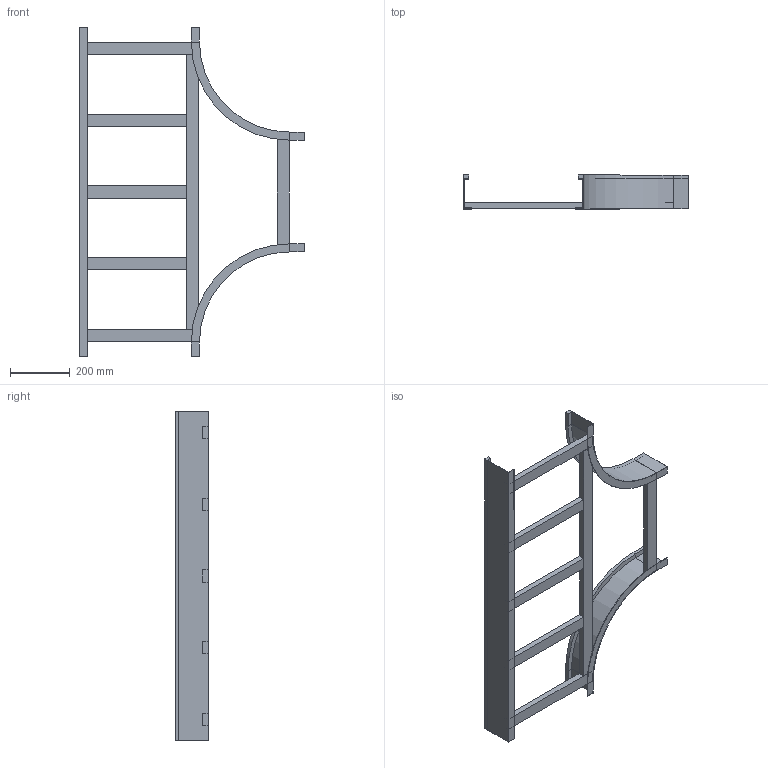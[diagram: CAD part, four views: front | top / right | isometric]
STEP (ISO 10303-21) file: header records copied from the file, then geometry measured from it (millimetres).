
FILE_DESCRIPTION (( 'STEP AP214' ), '1' );
FILE_NAME ('B2_15B3J400.step', '2025-02-21T15:52:03', ( '' ), ( '' ), 'SwSTEP 2.0', 'SolidWorks 2023', '' );
FILE_SCHEMA (( 'AUTOMOTIVE_DESIGN' ));
Length unit declared in the file: millimetre
Products named in the file (6): TRAVERSINO_400; B2_LONGH.INTERNO 90°_H112.5_R300; TRAVERSINO_INTERMEDIO_R300+400; B2_LONGH.RETT_H112.5_R300+400; B2_TRAVERSINO_LONG._R300+400; B2_15B3J400
Assembly tree (10 placements, depth 2):
  B2_15B3J400
    B2_LONGH.INTERNO 90°_H112.5_R300  x2
    B2_LONGH.RETT_H112.5_R300+400
    TRAVERSINO_400  x3
    B2_TRAVERSINO_LONG._R300+400
    TRAVERSINO_INTERMEDIO_R300+400  x3
Bounding box: 750 x 112.5 x 1100 mm (x, y, z)
Volume: 3626788.5 mm3; surface area: 1100308.7 mm2
Topology: 10 solids, 10 shells, 104 faces, 220 edges, 136 vertices
Faces by surface type: plane 96, cylinder 8
Entity records: 1647 total; most frequent: DIRECTION 258, CARTESIAN_POINT 255, ORIENTED_EDGE 232, EDGE_CURVE 116, VECTOR 108, LINE 108, AXIS2_PLACEMENT_3D 75, VERTEX_POINT 72
